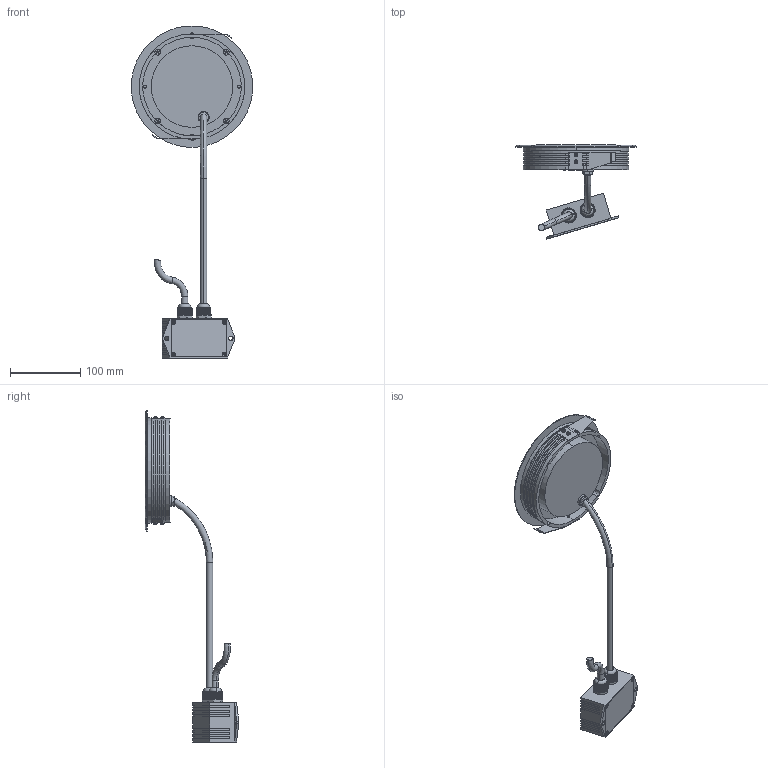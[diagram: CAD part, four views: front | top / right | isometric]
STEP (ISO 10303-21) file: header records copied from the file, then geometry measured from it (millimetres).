
FILE_DESCRIPTION((''),'2;1');
FILE_NAME('ASM0012_ASM','2017-08-28T',('Administrator'),(''),'PRO/ENGINEER BY PARAMETRIC TECHNOLOGY CORPORATION, 2009440','PRO/ENGINEER BY PARAMETRIC TECHNOLOGY CORPORATION, 2009440','');
FILE_SCHEMA(('CONFIG_CONTROL_DESIGN'));
Length unit declared in the file: millimetre
Products named in the file (20): PRT0044; PRT0045; PRT0046; PRT0047; PRT0048; PRT0049; PRT0050; PRT0051; PRT0052; ASM0014_ASM; PRT0053; PRT0054; PRT0055; PRT0056; PRT0057; PRT0058; PRT0059; ASM0015_ASM; ASM0013_ASM; ASM0012_ASM
Assembly tree (31 placements, depth 4):
  ASM0012_ASM
    ASM0013_ASM
      ASM0014_ASM
        PRT0044
        PRT0045
        PRT0046  x2
        PRT0047
        PRT0048  x4
        PRT0049  x4
        PRT0050
        PRT0051
        PRT0052
      ASM0015_ASM
        PRT0053
        PRT0054
        PRT0055  x4
        PRT0056  x2
        PRT0057  x2
        PRT0058
        PRT0059
Bounding box: 172.34 x 133.03 x 472.31 mm (x, y, z)
Surface area: 227837.4 mm2 (no closed solid volume)
Topology: 0 solids, 28 shells, 1741 faces, 4780 edges, 3142 vertices
Faces by surface type: plane 1166, cylinder 397, cone 109, bspline 32, torus 16, extrusion 12, sphere 9
Entity records: 39361 total; most frequent: CARTESIAN_POINT 12837, ORIENTED_EDGE 5642, DIRECTION 5162, EDGE_CURVE 2821, VERTEX_POINT 1852, AXIS2_PLACEMENT_3D 1754, VECTOR 1654, LINE 1642
